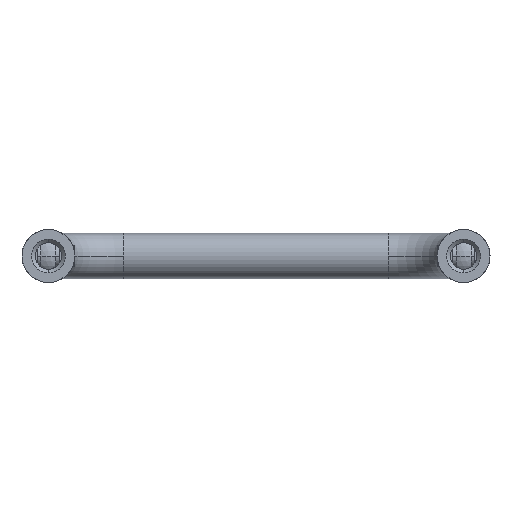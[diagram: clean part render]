
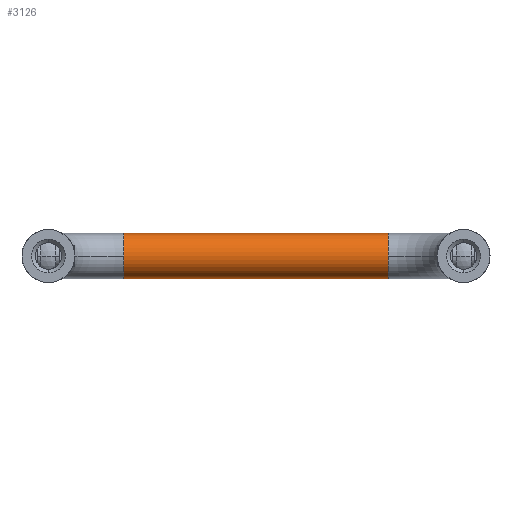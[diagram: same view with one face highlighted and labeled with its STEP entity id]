
A CAD part, front view. The second image highlights one B-rep face of the part: STEP entity #3126.
In plain terms, the highlighted cylindrical face has radius 3 mm (diameter 6 mm), a partial arc.
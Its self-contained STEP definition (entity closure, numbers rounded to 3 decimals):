
#104 = ORIENTED_EDGE ( 'NONE', *, *, #3045, .T. ) ;
#204 = EDGE_CURVE ( 'NONE', #4594, #4306, #4514, .T. ) ;
#205 = CARTESIAN_POINT ( 'NONE',  ( -17.5, 34.682, 0. ) ) ;
#271 = DIRECTION ( 'NONE',  ( -1., 0., 0. ) ) ;
#688 = CARTESIAN_POINT ( 'NONE',  ( -17.5, 34.682, -3. ) ) ;
#710 = CARTESIAN_POINT ( 'NONE',  ( 17.5, 31.682, 0. ) ) ;
#792 = CARTESIAN_POINT ( 'NONE',  ( 17.5, 34.682, 0. ) ) ;
#817 = DIRECTION ( 'NONE',  ( 0., -1., 0. ) ) ;
#858 = CARTESIAN_POINT ( 'NONE',  ( -17.5, 34.682, 3. ) ) ;
#1052 = EDGE_CURVE ( 'NONE', #3321, #1744, #4020, .T. ) ;
#1107 = DIRECTION ( 'NONE',  ( -1., 0., 0. ) ) ;
#1336 = CYLINDRICAL_SURFACE ( 'NONE', #4171, 3. ) ;
#1420 = ORIENTED_EDGE ( 'NONE', *, *, #204, .F. ) ;
#1526 = EDGE_CURVE ( 'NONE', #3321, #4898, #2300, .T. ) ;
#1744 = VERTEX_POINT ( 'NONE', #6929 ) ;
#1831 = EDGE_LOOP ( 'NONE', ( #1420, #4133, #7190, #4319, #7391, #104 ) ) ;
#2300 = CIRCLE ( 'NONE', #4629, 3. ) ;
#2630 = DIRECTION ( 'NONE',  ( 0., -1., 0. ) ) ;
#2634 = CIRCLE ( 'NONE', #4721, 3. ) ;
#2736 = VECTOR ( 'NONE', #5178, 1000. ) ;
#2945 = EDGE_CURVE ( 'NONE', #4898, #4594, #2634, .T. ) ;
#3033 = DIRECTION ( 'NONE',  ( 1., 0., 0. ) ) ;
#3045 = EDGE_CURVE ( 'NONE', #5852, #4306, #3185, .T. ) ;
#3050 = CARTESIAN_POINT ( 'NONE',  ( -17.5, 31.682, 0. ) ) ;
#3126 = ADVANCED_FACE ( 'NONE', ( #4188 ), #1336, .T. ) ;
#3185 = CIRCLE ( 'NONE', #3798, 3. ) ;
#3321 = VERTEX_POINT ( 'NONE', #688 ) ;
#3528 = CARTESIAN_POINT ( 'NONE',  ( 17.5, 34.682, 3. ) ) ;
#3798 = AXIS2_PLACEMENT_3D ( 'NONE', #792, #7096, #4870 ) ;
#3992 = CARTESIAN_POINT ( 'NONE',  ( -17.5, 34.682, 0. ) ) ;
#4020 = LINE ( 'NONE', #6317, #2736 ) ;
#4099 = AXIS2_PLACEMENT_3D ( 'NONE', #5443, #7120, #817 ) ;
#4133 = ORIENTED_EDGE ( 'NONE', *, *, #2945, .F. ) ;
#4171 = AXIS2_PLACEMENT_3D ( 'NONE', #205, #3033, #4794 ) ;
#4188 = FACE_OUTER_BOUND ( 'NONE', #1831, .T. ) ;
#4306 = VERTEX_POINT ( 'NONE', #3528 ) ;
#4319 = ORIENTED_EDGE ( 'NONE', *, *, #1052, .T. ) ;
#4398 = CARTESIAN_POINT ( 'NONE',  ( -17.5, 34.682, 0. ) ) ;
#4514 = LINE ( 'NONE', #858, #5329 ) ;
#4594 = VERTEX_POINT ( 'NONE', #5704 ) ;
#4629 = AXIS2_PLACEMENT_3D ( 'NONE', #4398, #271, #2630 ) ;
#4721 = AXIS2_PLACEMENT_3D ( 'NONE', #3992, #1107, #7602 ) ;
#4794 = DIRECTION ( 'NONE',  ( 0., 0., -1. ) ) ;
#4870 = DIRECTION ( 'NONE',  ( 0., -1., 0. ) ) ;
#4898 = VERTEX_POINT ( 'NONE', #3050 ) ;
#5178 = DIRECTION ( 'NONE',  ( 1., 0., 0. ) ) ;
#5329 = VECTOR ( 'NONE', #5710, 1000. ) ;
#5443 = CARTESIAN_POINT ( 'NONE',  ( 17.5, 34.682, 0. ) ) ;
#5704 = CARTESIAN_POINT ( 'NONE',  ( -17.5, 34.682, 3. ) ) ;
#5710 = DIRECTION ( 'NONE',  ( 1., 0., 0. ) ) ;
#5852 = VERTEX_POINT ( 'NONE', #710 ) ;
#6171 = CIRCLE ( 'NONE', #4099, 3. ) ;
#6317 = CARTESIAN_POINT ( 'NONE',  ( -17.5, 34.682, -3. ) ) ;
#6598 = EDGE_CURVE ( 'NONE', #1744, #5852, #6171, .T. ) ;
#6929 = CARTESIAN_POINT ( 'NONE',  ( 17.5, 34.682, -3. ) ) ;
#7096 = DIRECTION ( 'NONE',  ( -1., 0., 0. ) ) ;
#7120 = DIRECTION ( 'NONE',  ( -1., 0., 0. ) ) ;
#7190 = ORIENTED_EDGE ( 'NONE', *, *, #1526, .F. ) ;
#7391 = ORIENTED_EDGE ( 'NONE', *, *, #6598, .T. ) ;
#7602 = DIRECTION ( 'NONE',  ( 0., -1., 0. ) ) ;
